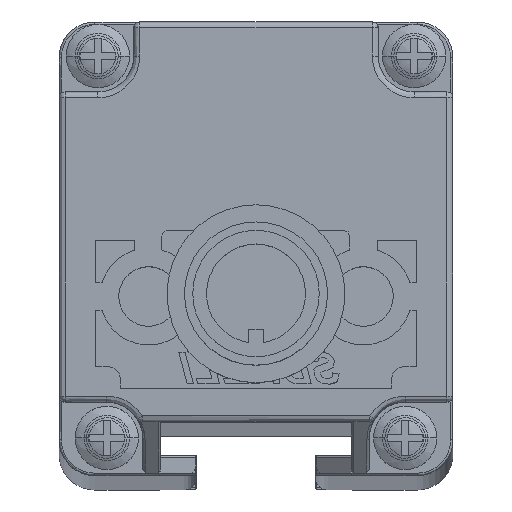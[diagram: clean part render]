
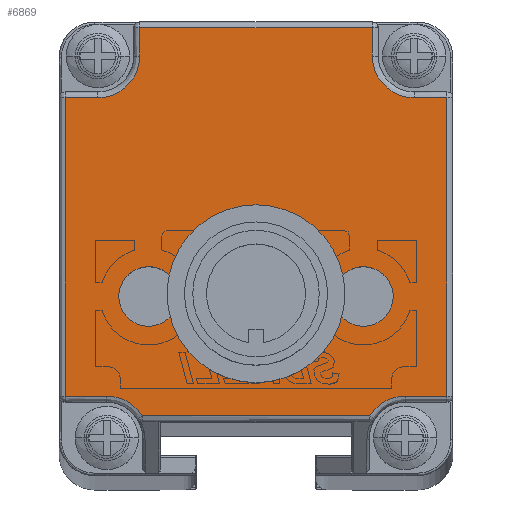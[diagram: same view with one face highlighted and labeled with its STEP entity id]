
A CAD part, top view. The second image highlights one B-rep face of the part: STEP entity #6869.
In plain terms, the highlighted planar face has unit normal (0, 0, 1).
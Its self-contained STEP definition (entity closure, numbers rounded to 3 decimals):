
#2781=CARTESIAN_POINT('',(0.65,-8.054,
565.276));
#2782=DIRECTION('',(0.,0.,1.));
#2783=DIRECTION('',(1.,0.,0.));
#2784=AXIS2_PLACEMENT_3D('',#2781,#2782,#2783);
#2786=CARTESIAN_POINT('',(0.65,-8.054,
565.276));
#2787=DIRECTION('',(0.,0.,1.));
#2788=DIRECTION('',(-1.,0.,0.));
#2789=AXIS2_PLACEMENT_3D('',#2786,#2787,#2788);
#2791=CARTESIAN_POINT('',(9.65,-8.055,565.276));
#2792=DIRECTION('',(0.,0.,1.));
#2793=DIRECTION('',(1.,-0.007,0.));
#2794=AXIS2_PLACEMENT_3D('',#2791,#2792,#2793);
#2796=CARTESIAN_POINT('',(9.65,-8.055,565.276));
#2797=DIRECTION('',(0.,0.,1.));
#2798=DIRECTION('',(-1.,0.007,0.));
#2799=AXIS2_PLACEMENT_3D('',#2796,#2797,#2798);
#2801=CARTESIAN_POINT('',(-8.35,-8.054,
565.276));
#2802=DIRECTION('',(0.,0.,1.));
#2803=DIRECTION('',(1.,0.007,0.));
#2804=AXIS2_PLACEMENT_3D('',#2801,#2802,#2803);
#2806=CARTESIAN_POINT('',(-8.35,-8.054,
565.276));
#2807=DIRECTION('',(0.,0.,1.));
#2808=DIRECTION('',(-1.,-0.007,0.));
#2809=AXIS2_PLACEMENT_3D('',#2806,#2807,#2808);
#2811=CARTESIAN_POINT('',(-11.85,-19.904,
565.276));
#2812=DIRECTION('',(0.,0.,1.));
#2813=DIRECTION('',(0.849,0.528,0.));
#2814=AXIS2_PLACEMENT_3D('',#2811,#2812,#2813);
#2816=CARTESIAN_POINT('',(-12.6,12.094,565.276));
#2817=DIRECTION('',(0.,0.,1.));
#2818=DIRECTION('',(0.,-1.,0.));
#2819=AXIS2_PLACEMENT_3D('',#2816,#2817,#2818);
#2821=CARTESIAN_POINT('',(13.9,12.094,565.276));
#2822=DIRECTION('',(0.,0.,1.));
#2823=DIRECTION('',(-1.,0.,0.));
#2824=AXIS2_PLACEMENT_3D('',#2821,#2822,#2823);
#2826=CARTESIAN_POINT('',(13.15,-19.904,565.276));
#2827=DIRECTION('',(0.,0.,1.));
#2828=DIRECTION('',(0.,1.,0.));
#2829=AXIS2_PLACEMENT_3D('',#2826,#2827,#2828);
#4545=DIRECTION('',(1.,0.,0.));
#4546=VECTOR('',#4545,19.056);
#4547=CARTESIAN_POINT('',(-8.878,-18.056,
565.276));
#4548=LINE('',#4547,#4546);
#4928=DIRECTION('',(0.,1.,0.));
#4929=VECTOR('',#4928,24.998);
#4930=CARTESIAN_POINT('',(16.65,-16.404,565.276));
#4931=LINE('',#4930,#4929);
#4951=DIRECTION('',(1.,0.,0.));
#4952=VECTOR('',#4951,3.5);
#4953=CARTESIAN_POINT('',(13.15,-16.404,565.276));
#4954=LINE('',#4953,#4952);
#4975=DIRECTION('',(-1.,0.,0.));
#4976=VECTOR('',#4975,2.75);
#4977=CARTESIAN_POINT('',(16.65,8.594,565.276));
#4978=LINE('',#4977,#4976);
#5002=DIRECTION('',(0.,1.,0.));
#5003=VECTOR('',#5002,2.35);
#5004=CARTESIAN_POINT('',(10.4,12.094,565.276));
#5005=LINE('',#5004,#5003);
#5213=DIRECTION('',(-1.,0.,0.));
#5214=VECTOR('',#5213,19.5);
#5215=CARTESIAN_POINT('',(10.4,14.444,565.276));
#5216=LINE('',#5215,#5214);
#5252=DIRECTION('',(0.,-1.,0.));
#5253=VECTOR('',#5252,2.35);
#5254=CARTESIAN_POINT('',(-9.1,14.444,565.276));
#5255=LINE('',#5254,#5253);
#5279=DIRECTION('',(-1.,0.,0.));
#5280=VECTOR('',#5279,2.75);
#5281=CARTESIAN_POINT('',(-12.6,8.594,565.276));
#5282=LINE('',#5281,#5280);
#5450=DIRECTION('',(0.,-1.,0.));
#5451=VECTOR('',#5450,24.998);
#5452=CARTESIAN_POINT('',(-15.35,8.594,565.276));
#5453=LINE('',#5452,#5451);
#5489=DIRECTION('',(1.,0.,0.));
#5490=VECTOR('',#5489,3.5);
#5491=CARTESIAN_POINT('',(-15.35,-16.404,
565.276));
#5492=LINE('',#5491,#5490);
#5953=CARTESIAN_POINT('',(12.15,-8.072,565.276));
#5954=VERTEX_POINT('',#5953);
#5955=CARTESIAN_POINT('',(7.15,-8.039,565.276));
#5956=VERTEX_POINT('',#5955);
#5957=CARTESIAN_POINT('',(-8.878,-18.056,
565.276));
#5958=CARTESIAN_POINT('',(-11.85,-16.404,
565.276));
#5959=VERTEX_POINT('',#5957);
#5960=VERTEX_POINT('',#5958);
#5961=CARTESIAN_POINT('',(-15.35,-16.404,
565.276));
#5962=VERTEX_POINT('',#5961);
#5963=CARTESIAN_POINT('',(-15.35,8.594,565.276));
#5964=VERTEX_POINT('',#5963);
#5965=CARTESIAN_POINT('',(-12.6,8.594,565.276));
#5966=VERTEX_POINT('',#5965);
#5967=CARTESIAN_POINT('',(-9.1,12.094,565.276));
#5968=VERTEX_POINT('',#5967);
#5969=CARTESIAN_POINT('',(-9.1,14.444,565.276));
#5970=VERTEX_POINT('',#5969);
#5971=CARTESIAN_POINT('',(10.4,14.444,565.276));
#5972=VERTEX_POINT('',#5971);
#5973=CARTESIAN_POINT('',(10.4,12.094,565.276));
#5974=VERTEX_POINT('',#5973);
#5975=CARTESIAN_POINT('',(13.9,8.594,565.276));
#5976=VERTEX_POINT('',#5975);
#5977=CARTESIAN_POINT('',(16.65,8.594,565.276));
#5978=VERTEX_POINT('',#5977);
#5979=CARTESIAN_POINT('',(16.65,-16.404,565.276));
#5980=VERTEX_POINT('',#5979);
#5981=CARTESIAN_POINT('',(13.15,-16.404,565.276));
#5982=VERTEX_POINT('',#5981);
#5983=CARTESIAN_POINT('',(10.178,-18.056,565.276));
#5984=VERTEX_POINT('',#5983);
#5985=CARTESIAN_POINT('',(-5.85,-8.037,
565.276));
#5986=CARTESIAN_POINT('',(-10.85,-8.07,
565.276));
#5987=VERTEX_POINT('',#5985);
#5988=VERTEX_POINT('',#5986);
#5989=CARTESIAN_POINT('',(3.65,-8.054,565.276));
#5990=CARTESIAN_POINT('',(-2.35,-8.054,
565.276));
#5991=VERTEX_POINT('',#5989);
#5992=VERTEX_POINT('',#5990);
#6818=CARTESIAN_POINT('',(0.65,0.944,
565.276));
#6819=DIRECTION('',(0.,0.,1.));
#6820=DIRECTION('',(1.,0.,0.));
#6821=AXIS2_PLACEMENT_3D('',#6818,#6819,#6820);
#6822=PLANE('',#6821);
#6824=ORIENTED_EDGE('',*,*,#6823,.T.);
#6826=ORIENTED_EDGE('',*,*,#6825,.F.);
#6828=ORIENTED_EDGE('',*,*,#6827,.F.);
#6830=ORIENTED_EDGE('',*,*,#6829,.F.);
#6832=ORIENTED_EDGE('',*,*,#6831,.T.);
#6834=ORIENTED_EDGE('',*,*,#6833,.F.);
#6836=ORIENTED_EDGE('',*,*,#6835,.F.);
#6838=ORIENTED_EDGE('',*,*,#6837,.F.);
#6840=ORIENTED_EDGE('',*,*,#6839,.T.);
#6842=ORIENTED_EDGE('',*,*,#6841,.F.);
#6844=ORIENTED_EDGE('',*,*,#6843,.F.);
#6846=ORIENTED_EDGE('',*,*,#6845,.F.);
#6848=ORIENTED_EDGE('',*,*,#6847,.T.);
#6850=ORIENTED_EDGE('',*,*,#6849,.F.);
#6851=EDGE_LOOP('',(#6824,#6826,#6828,#6830,#6832,#6834,#6836,#6838,#6840,#6842,
#6844,#6846,#6848,#6850));
#6852=FACE_OUTER_BOUND('',#6851,.F.);
#6853=ORIENTED_EDGE('',*,*,#6805,.T.);
#6854=ORIENTED_EDGE('',*,*,#6766,.T.);
#6855=EDGE_LOOP('',(#6853,#6854));
#6856=FACE_BOUND('',#6855,.F.);
#6858=ORIENTED_EDGE('',*,*,#6857,.T.);
#6860=ORIENTED_EDGE('',*,*,#6859,.T.);
#6861=EDGE_LOOP('',(#6858,#6860));
#6862=FACE_BOUND('',#6861,.F.);
#6864=ORIENTED_EDGE('',*,*,#6863,.T.);
#6866=ORIENTED_EDGE('',*,*,#6865,.T.);
#6867=EDGE_LOOP('',(#6864,#6866));
#6868=FACE_BOUND('',#6867,.F.);
#2785=CIRCLE('',#2784,3.);
#2790=CIRCLE('',#2789,3.);
#2795=CIRCLE('',#2794,2.5);
#2800=CIRCLE('',#2799,2.5);
#2805=CIRCLE('',#2804,2.5);
#2810=CIRCLE('',#2809,2.5);
#2815=CIRCLE('',#2814,3.5);
#2820=CIRCLE('',#2819,3.5);
#2825=CIRCLE('',#2824,3.5);
#2830=CIRCLE('',#2829,3.5);
#6766=EDGE_CURVE('',#5956,#5954,#2800,.T.);
#6805=EDGE_CURVE('',#5954,#5956,#2795,.T.);
#6823=EDGE_CURVE('',#5959,#5960,#2815,.T.);
#6825=EDGE_CURVE('',#5962,#5960,#5492,.T.);
#6827=EDGE_CURVE('',#5964,#5962,#5453,.T.);
#6829=EDGE_CURVE('',#5966,#5964,#5282,.T.);
#6831=EDGE_CURVE('',#5966,#5968,#2820,.T.);
#6833=EDGE_CURVE('',#5970,#5968,#5255,.T.);
#6835=EDGE_CURVE('',#5972,#5970,#5216,.T.);
#6837=EDGE_CURVE('',#5974,#5972,#5005,.T.);
#6839=EDGE_CURVE('',#5974,#5976,#2825,.T.);
#6841=EDGE_CURVE('',#5978,#5976,#4978,.T.);
#6843=EDGE_CURVE('',#5980,#5978,#4931,.T.);
#6845=EDGE_CURVE('',#5982,#5980,#4954,.T.);
#6847=EDGE_CURVE('',#5982,#5984,#2830,.T.);
#6849=EDGE_CURVE('',#5959,#5984,#4548,.T.);
#6857=EDGE_CURVE('',#5987,#5988,#2805,.T.);
#6859=EDGE_CURVE('',#5988,#5987,#2810,.T.);
#6863=EDGE_CURVE('',#5991,#5992,#2785,.T.);
#6865=EDGE_CURVE('',#5992,#5991,#2790,.T.);
#6869=ADVANCED_FACE('',(#6852,#6856,#6862,#6868),#6822,.T.);
